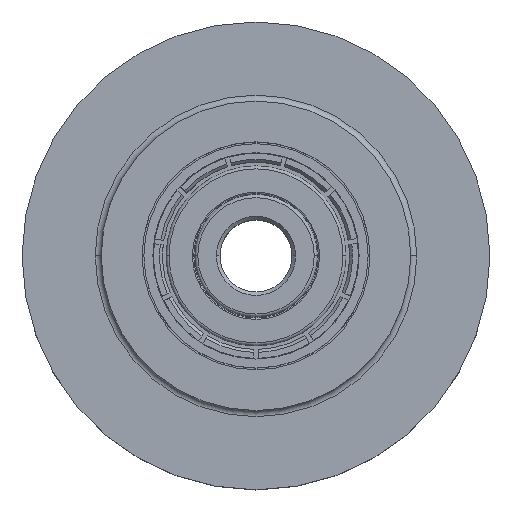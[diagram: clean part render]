
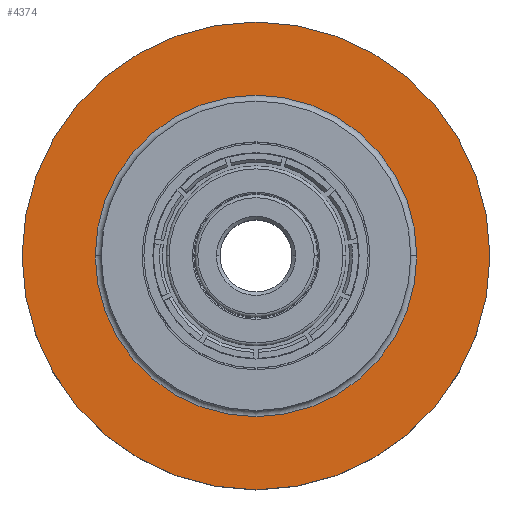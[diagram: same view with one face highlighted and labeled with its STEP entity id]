
A CAD part, top view. The second image highlights one B-rep face of the part: STEP entity #4374.
In plain terms, the highlighted planar face has unit normal (0, 0, 1).
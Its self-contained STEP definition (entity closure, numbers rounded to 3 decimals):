
#240 = AXIS2_PLACEMENT_3D ( 'NONE', #1282, #3504, #2666 ) ;
#267 = ORIENTED_EDGE ( 'NONE', *, *, #2341, .T. ) ;
#409 = DIRECTION ( 'NONE',  ( 1., 0., 0. ) ) ;
#682 = PLANE ( 'NONE',  #941 ) ;
#920 = DIRECTION ( 'NONE',  ( 1., 0., 0. ) ) ;
#941 = AXIS2_PLACEMENT_3D ( 'NONE', #4305, #1093, #4332 ) ;
#962 = EDGE_CURVE ( 'NONE', #4798, #3373, #1274, .T. ) ;
#1093 = DIRECTION ( 'NONE',  ( 0., 0., 1. ) ) ;
#1274 = CIRCLE ( 'NONE', #240, 13.4 ) ;
#1282 = CARTESIAN_POINT ( 'NONE',  ( 0.6, 19.75, 4. ) ) ;
#1305 = CIRCLE ( 'NONE', #4664, 19.5 ) ;
#1866 = DIRECTION ( 'NONE',  ( 0., 0., 1. ) ) ;
#1952 = EDGE_CURVE ( 'NONE', #3373, #4798, #3571, .T. ) ;
#2168 = CARTESIAN_POINT ( 'NONE',  ( 20.1, 19.75, 4. ) ) ;
#2268 = CIRCLE ( 'NONE', #4947, 19.5 ) ;
#2341 = EDGE_CURVE ( 'NONE', #4665, #4793, #1305, .T. ) ;
#2342 = ORIENTED_EDGE ( 'NONE', *, *, #3555, .T. ) ;
#2612 = AXIS2_PLACEMENT_3D ( 'NONE', #2873, #4130, #920 ) ;
#2666 = DIRECTION ( 'NONE',  ( 1., 0., 0. ) ) ;
#2781 = DIRECTION ( 'NONE',  ( 0., 0., 1. ) ) ;
#2829 = CARTESIAN_POINT ( 'NONE',  ( 0.6, 19.75, 4. ) ) ;
#2873 = CARTESIAN_POINT ( 'NONE',  ( 0.6, 19.75, 4. ) ) ;
#2884 = CARTESIAN_POINT ( 'NONE',  ( 14., 19.75, 4. ) ) ;
#2982 = FACE_OUTER_BOUND ( 'NONE', #3412, .T. ) ;
#3373 = VERTEX_POINT ( 'NONE', #2884 ) ;
#3412 = EDGE_LOOP ( 'NONE', ( #267, #2342 ) ) ;
#3504 = DIRECTION ( 'NONE',  ( 0., 0., 1. ) ) ;
#3555 = EDGE_CURVE ( 'NONE', #4793, #4665, #2268, .T. ) ;
#3571 = CIRCLE ( 'NONE', #2612, 13.4 ) ;
#3841 = ORIENTED_EDGE ( 'NONE', *, *, #962, .F. ) ;
#3918 = FACE_BOUND ( 'NONE', #5507, .T. ) ;
#4130 = DIRECTION ( 'NONE',  ( 0., 0., 1. ) ) ;
#4305 = CARTESIAN_POINT ( 'NONE',  ( 14., 19.75, 4. ) ) ;
#4332 = DIRECTION ( 'NONE',  ( 1., 0., 0. ) ) ;
#4374 = ADVANCED_FACE ( 'NONE', ( #2982, #3918 ), #682, .T. ) ;
#4606 = DIRECTION ( 'NONE',  ( 1., 0., 0. ) ) ;
#4664 = AXIS2_PLACEMENT_3D ( 'NONE', #5561, #2781, #4606 ) ;
#4665 = VERTEX_POINT ( 'NONE', #2168 ) ;
#4793 = VERTEX_POINT ( 'NONE', #5042 ) ;
#4798 = VERTEX_POINT ( 'NONE', #5492 ) ;
#4947 = AXIS2_PLACEMENT_3D ( 'NONE', #2829, #1866, #409 ) ;
#5042 = CARTESIAN_POINT ( 'NONE',  ( -18.9, 19.75, 4. ) ) ;
#5286 = ORIENTED_EDGE ( 'NONE', *, *, #1952, .F. ) ;
#5492 = CARTESIAN_POINT ( 'NONE',  ( -12.8, 19.75, 4. ) ) ;
#5507 = EDGE_LOOP ( 'NONE', ( #5286, #3841 ) ) ;
#5561 = CARTESIAN_POINT ( 'NONE',  ( 0.6, 19.75, 4. ) ) ;
